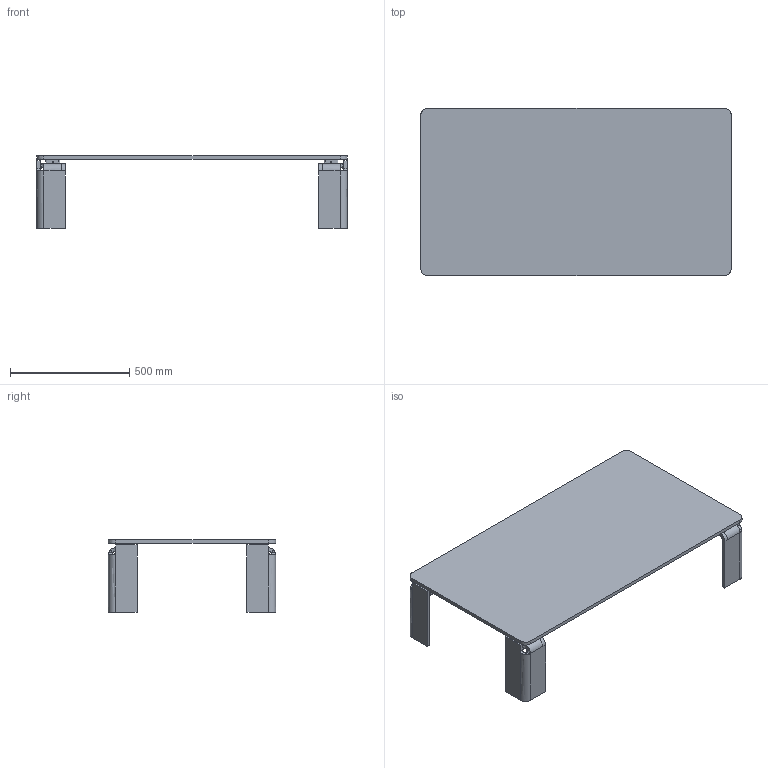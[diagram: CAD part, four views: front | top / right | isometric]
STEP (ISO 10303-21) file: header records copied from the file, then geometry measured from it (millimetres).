
FILE_DESCRIPTION(/* description */ (''),/* implementation_level */ '2;1');
FILE_NAME(/* name */ '100 - Newton 130x70 H30',/* time_stamp */ '2012-06-20T14:50:40+02:00',/* author */ (''),/* organization */ (''),/* preprocessor_version */ 'ST-DEVELOPER v10',/* originating_system */ '',/* authorisation */ '');
FILE_SCHEMA (('CONFIG_CONTROL_DESIGN'));
Length unit declared in the file: millimetre
Products named in the file (1): 1
Bounding box: 1300 x 700 x 304 mm (x, y, z)
Volume: 18026528.7 mm3; surface area: 2598712.2 mm2
Topology: 17 solids, 17 shells, 230 faces, 532 edges, 328 vertices
Faces by surface type: bspline 128, plane 102
Entity records: 8640 total; most frequent: CARTESIAN_POINT 5168, ORIENTED_EDGE 1048, EDGE_CURVE 524, B_SPLINE_CURVE_WITH_KNOTS 364, VERTEX_POINT 328, EDGE_LOOP 254, ADVANCED_FACE 230, FACE_OUTER_BOUND 230
